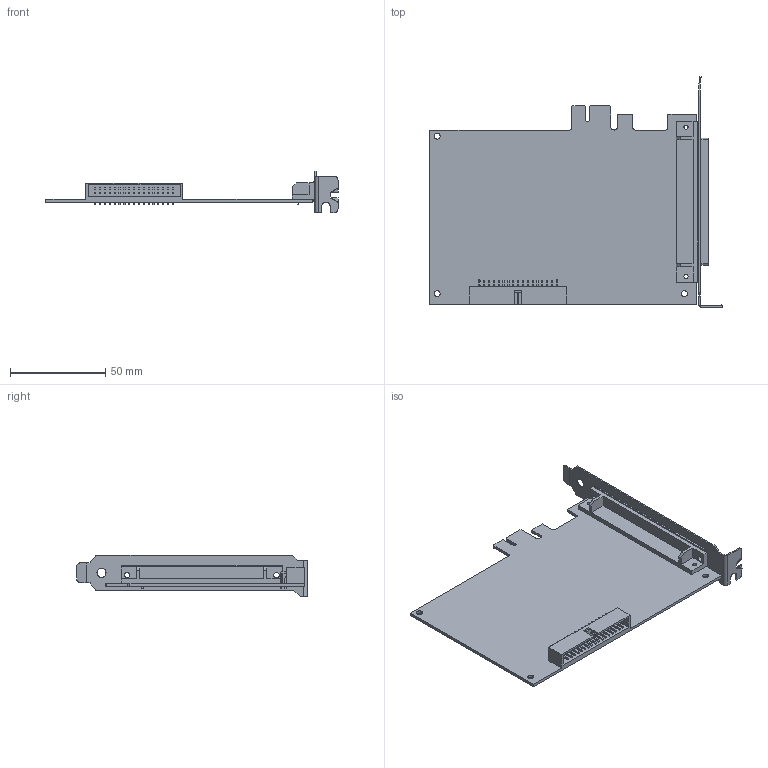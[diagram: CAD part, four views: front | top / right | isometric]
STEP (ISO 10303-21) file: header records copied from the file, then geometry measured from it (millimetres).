
FILE_DESCRIPTION((''),'2;1');
FILE_NAME('CU_PCIE-6509','2011-08-17T',('dkendric'),(''),'PRO/ENGINEER BY PARAMETRIC TECHNOLOGY CORPORATION, 2010230','PRO/ENGINEER BY PARAMETRIC TECHNOLOGY CORPORATION, 2010230','');
FILE_SCHEMA(('CONFIG_CONTROL_DESIGN'));
Length unit declared in the file: inch
Products named in the file (1): CU_PCIE-6509
Bounding box: 153.1 x 120.78 x 21.59 mm (x, y, z)
Volume: 30479.4 mm3; surface area: 36397.9 mm2
Topology: 1 solids, 1 shells, 748 faces, 2067 edges, 1366 vertices
Faces by surface type: plane 606, cylinder 138, bspline 4
Entity records: 23907 total; most frequent: CARTESIAN_POINT 4293, ORIENTED_EDGE 4134, DIRECTION 3815, EDGE_CURVE 2067, VECTOR 1791, LINE 1791, VERTEX_POINT 1366, AXIS2_PLACEMENT_3D 1012
